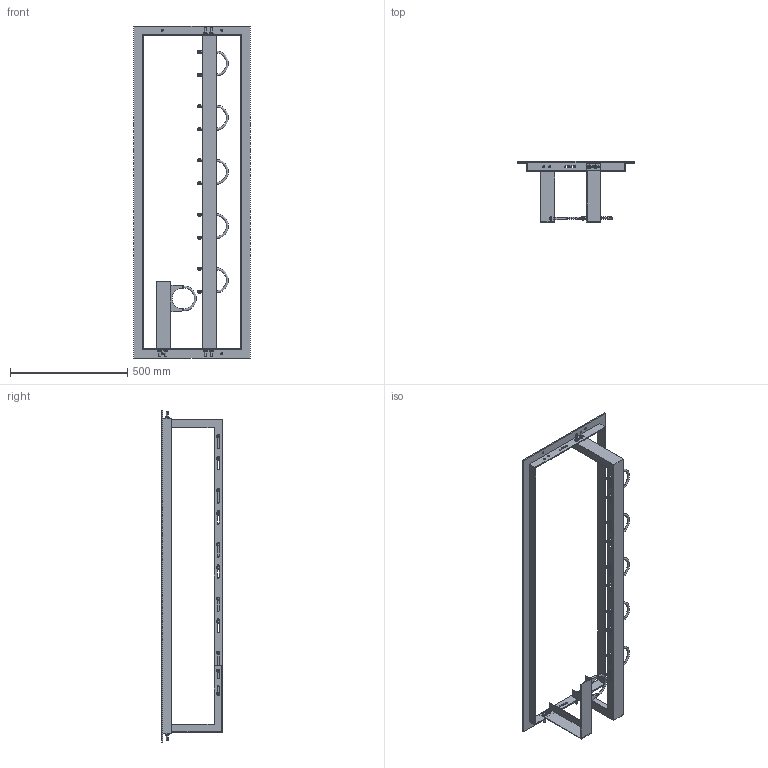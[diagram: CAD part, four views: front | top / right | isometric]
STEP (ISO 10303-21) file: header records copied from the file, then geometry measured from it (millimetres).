
FILE_DESCRIPTION (( 'STEP AP214' ), '1' );
FILE_NAME ('KP_DCF1450S.STEP', '2013-01-14T10:57:45', ( '' ), ( '' ), 'SwSTEP 2.0', 'SolidWorks 2012', '' );
FILE_SCHEMA (( 'AUTOMOTIVE_DESIGN' ));
Length unit declared in the file: millimetre
Products named in the file (1): KP_DCF1450S
Bounding box: 495 x 258 x 1415 mm (x, y, z)
Volume: 2216599 mm3; surface area: 1101354.8 mm2
Topology: 7 solids, 7 shells, 916 faces, 2214 edges, 1366 vertices
Faces by surface type: plane 484, cylinder 264, cone 156, torus 12
Entity records: 30801 total; most frequent: CARTESIAN_POINT 6522, DIRECTION 4583, ORIENTED_EDGE 4428, EDGE_CURVE 2214, AXIS2_PLACEMENT_3D 1767, VERTEX_POINT 1366, EDGE_LOOP 1052, LINE 1049
